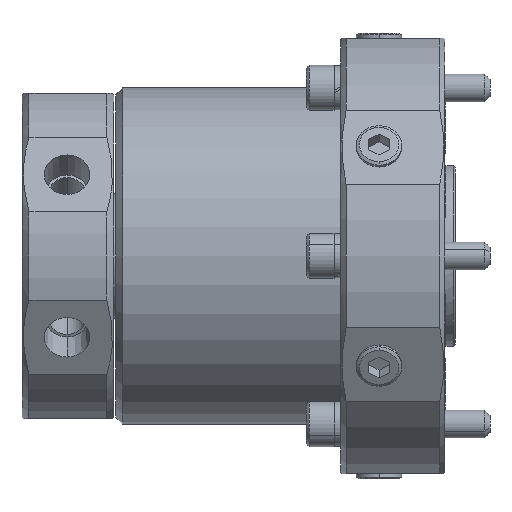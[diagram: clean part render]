
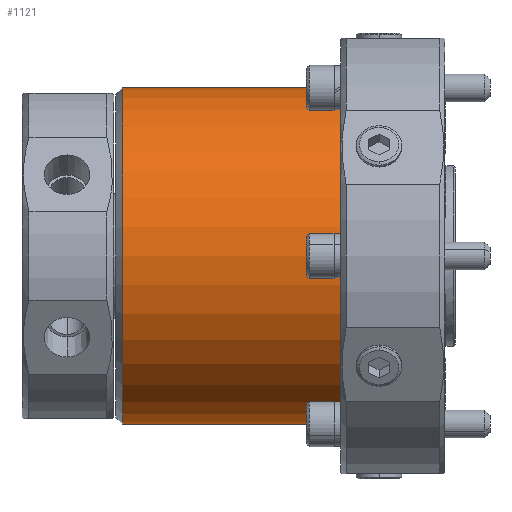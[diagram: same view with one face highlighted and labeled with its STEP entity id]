
A CAD part, left-side view. The second image highlights one B-rep face of the part: STEP entity #1121.
In plain terms, the highlighted cylindrical face has radius 48.5 mm (diameter 97 mm), a partial arc.
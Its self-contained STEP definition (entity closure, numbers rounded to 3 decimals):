
#1043 = EDGE_LOOP ( 'NONE', ( #1118, #1117, #1119, #1116 ) ) ;
#1114 = EDGE_CURVE ( 'NONE', #1611, #1561, #5773, .T. ) ;
#1116 = ORIENTED_EDGE ( 'NONE', *, *, #1114, .T. ) ;
#1117 = ORIENTED_EDGE ( 'NONE', *, *, #1126, .T. ) ;
#1118 = ORIENTED_EDGE ( 'NONE', *, *, #7573, .F. ) ;
#1119 = ORIENTED_EDGE ( 'NONE', *, *, #2328, .T. ) ;
#1121 = ADVANCED_FACE ( 'NONE', ( #5781 ), #5776, .T. ) ;
#1126 = EDGE_CURVE ( 'NONE', #1849, #1851, #5824, .T. ) ;
#1561 = VERTEX_POINT ( 'NONE', #6549 ) ;
#1611 = VERTEX_POINT ( 'NONE', #6661 ) ;
#1849 = VERTEX_POINT ( 'NONE', #7138 ) ;
#1851 = VERTEX_POINT ( 'NONE', #7132 ) ;
#2328 = EDGE_CURVE ( 'NONE', #1851, #1611, #8133, .T. ) ;
#5763 = AXIS2_PLACEMENT_3D ( 'NONE', #5774, #5789, #5788 ) ;
#5769 = DIRECTION ( 'NONE',  ( 0., 0., 1. ) ) ;
#5770 = DIRECTION ( 'NONE',  ( 0., -1., 0. ) ) ;
#5771 = CARTESIAN_POINT ( 'NONE',  ( 0., 60.143, 0. ) ) ;
#5772 = AXIS2_PLACEMENT_3D ( 'NONE', #5771, #5770, #5769 ) ;
#5773 = CIRCLE ( 'NONE', #5772, 48.5 ) ;
#5774 = CARTESIAN_POINT ( 'NONE',  ( 0., 40.14, 0. ) ) ;
#5776 = CYLINDRICAL_SURFACE ( 'NONE', #5763, 48.5 ) ;
#5781 = FACE_OUTER_BOUND ( 'NONE', #1043, .T. ) ;
#5788 = DIRECTION ( 'NONE',  ( 0., 0., 1. ) ) ;
#5789 = DIRECTION ( 'NONE',  ( 0., 1., 0. ) ) ;
#5812 = DIRECTION ( 'NONE',  ( 0., 0., 1. ) ) ;
#5813 = DIRECTION ( 'NONE',  ( 0., 1., 0. ) ) ;
#5814 = AXIS2_PLACEMENT_3D ( 'NONE', #5821, #5813, #5812 ) ;
#5821 = CARTESIAN_POINT ( 'NONE',  ( 0., -2.857, 0. ) ) ;
#5824 = CIRCLE ( 'NONE', #5814, 48.5 ) ;
#6549 = CARTESIAN_POINT ( 'NONE',  ( 0., 60.143, -48.5 ) ) ;
#6661 = CARTESIAN_POINT ( 'NONE',  ( 0., 60.143, 48.5 ) ) ;
#7132 = CARTESIAN_POINT ( 'NONE',  ( 0., -2.857, 48.5 ) ) ;
#7138 = CARTESIAN_POINT ( 'NONE',  ( 0., -2.857, -48.5 ) ) ;
#7573 = EDGE_CURVE ( 'NONE', #1849, #1561, #11510, .T. ) ;
#8124 = DIRECTION ( 'NONE',  ( 0., 1., 0. ) ) ;
#8125 = VECTOR ( 'NONE', #8124, 1000. ) ;
#8126 = CARTESIAN_POINT ( 'NONE',  ( 0., 40.14, 48.5 ) ) ;
#8133 = LINE ( 'NONE', #8126, #8125 ) ;
#11498 = DIRECTION ( 'NONE',  ( 0., 1., 0. ) ) ;
#11499 = VECTOR ( 'NONE', #11498, 1000. ) ;
#11500 = CARTESIAN_POINT ( 'NONE',  ( 0., 40.14, -48.5 ) ) ;
#11510 = LINE ( 'NONE', #11500, #11499 ) ;
